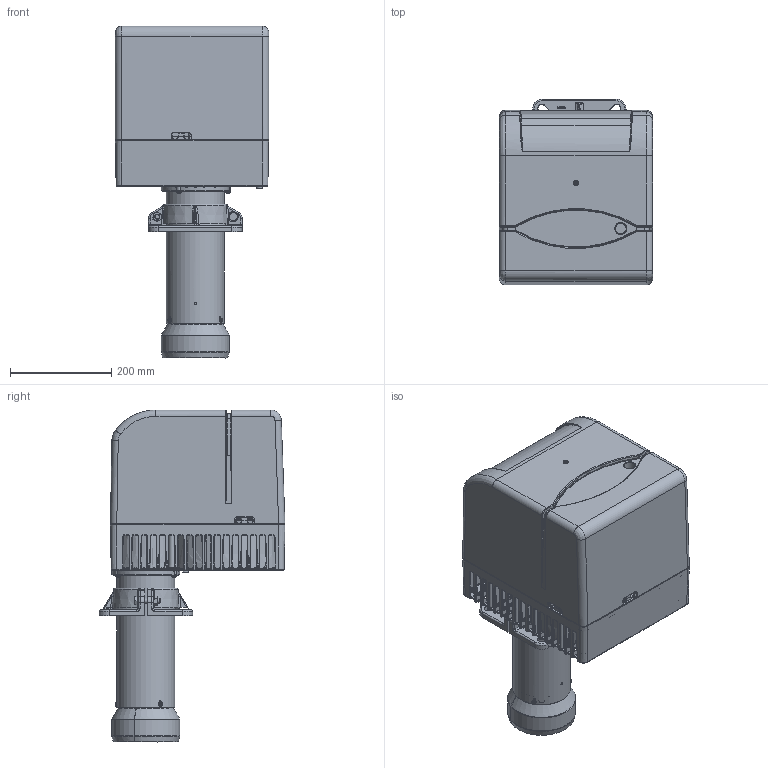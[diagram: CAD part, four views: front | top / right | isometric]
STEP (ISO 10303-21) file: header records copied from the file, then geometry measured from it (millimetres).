
FILE_DESCRIPTION (( 'STEP AP203' ), '1' );
FILE_NAME ('35660010-147774.STEP', '2019-02-08T15:45:47', ( '' ), ( '' ), 'SwSTEP 2.0', 'SolidWorks 2018', '' );
FILE_SCHEMA (( 'CONFIG_CONTROL_DESIGN' ));
Products named in the file (1): 35660010-147774
Bounding box: 303.03 x 367.53 x 656.4 mm (x, y, z)
Surface area: 1356448 mm2 (no closed solid volume)
Topology: 0 solids, 106 shells, 1824 faces, 7730 edges, 5666 vertices
Faces by surface type: plane 566, cylinder 463, bspline 443, cone 282, torus 62, sphere 8
Full cylindrical faces by diameter (mm): 3.3 x4, 3.95 x1, 4 x2, 4.5 x3, 5 x4, 8 x6, 9.5 x5, 10 x3, 10.5 x1, 12 x1, 14 x1, 16 x2, 20 x2, 20.1 x1, 21 x1, 24 x1, 93 x1, 114.3 x1
Entity records: 123697 total; most frequent: CARTESIAN_POINT 69957, ORIENTED_EDGE 10991, DIRECTION 8817, EDGE_CURVE 7627, VERTEX_POINT 5639, AXIS2_PLACEMENT_3D 3119, B_SPLINE_CURVE_WITH_KNOTS 3051, VECTOR 2579
